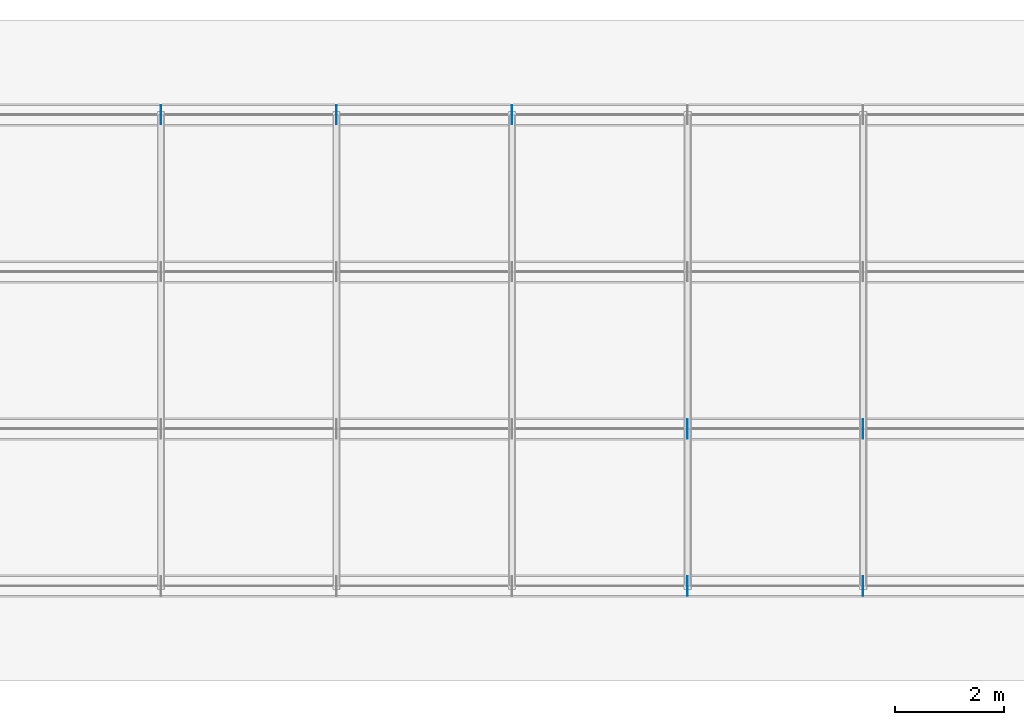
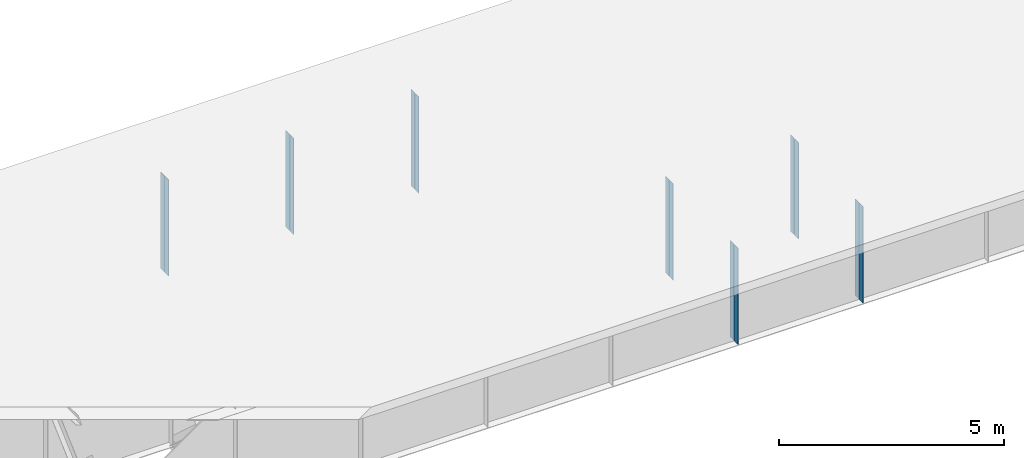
# One storey, part 12 of 13: 14 plates.
"""IFC4 building model written with IfcOpenShell, lengths in metres."""

import ifcopenshell
import ifcopenshell.guid

model = None  # the IFC model being written
_history = None  # IfcOwnerHistory: only IFC2X3 demands one
_inside = {}  # id of a spatial element -> (the spatial element, [elements in it])
_under = {}  # id of a project, library or spatial element -> (it, [spatial elements below it])
_declared = {}  # id of a project -> (the project, [libraries it declares])
_typed = {}  # id of a type object -> (the type object, [elements of that type])
_made_of = {}  # id of a material, layer set ... -> (it, [elements and type objects made of it])


def new_model(schema):
    """Start an empty IFC model of exactly this schema.

    Asked for "IFC4X3", IfcOpenShell would pick the latest addendum, in which some entities
    have other attributes; the version numbers below select the first issue.
    IFC2X3 requires an IfcOwnerHistory on every rooted entity: one is made here for all.
    """
    global model, _history
    if schema == "IFC4X3":
        model = ifcopenshell.file(schema_version=(4, 3, 0, 0))
    else:
        model = ifcopenshell.file(schema=schema)
    _inside.clear()
    _under.clear()
    _declared.clear()
    _typed.clear()
    _made_of.clear()
    _history = None
    if model.schema == "IFC2X3":
        org = make("IfcOrganization", Name="unknown")
        user = make(
            "IfcPersonAndOrganization",
            ThePerson=make("IfcPerson", FamilyName="unknown"),
            TheOrganization=org,
        )
        app = make(
            "IfcApplication",
            ApplicationDeveloper=org,
            Version="unknown",
            ApplicationFullName="unknown",
            ApplicationIdentifier="unknown",
        )
        _history = make(
            "IfcOwnerHistory",
            OwningUser=user,
            OwningApplication=app,
            ChangeAction="ADDED",
            CreationDate=0,
        )
    return model


def make(cls, **values):
    """One entity of the class cls with the attributes given. An attribute that is None is left unset."""
    return model.create_entity(
        cls, **{name: value for name, value in values.items() if value is not None}
    )


def rooted(cls, **values):
    """An entity with a GlobalId (a new one), such as an element, a storey or a relation."""
    return make(cls, GlobalId=ifcopenshell.guid.new(), OwnerHistory=_history, **values)


def si_unit(unit_type, name, prefix=None):
    """IfcSIUnit, for example si_unit("LENGTHUNIT", "METRE", prefix="MILLI")."""
    return make("IfcSIUnit", UnitType=unit_type, Prefix=prefix, Name=name)


def assignment(units):
    """IfcUnitAssignment: the units of a project."""
    return None if units is None else make("IfcUnitAssignment", Units=units)


def point(xyz):
    """IfcCartesianPoint."""
    return None if xyz is None else make("IfcCartesianPoint", Coordinates=xyz)


def direction(xyz):
    """IfcDirection."""
    return None if xyz is None else make("IfcDirection", DirectionRatios=xyz)


def frame(location, z_axis=None, x_axis=None):
    """IfcAxis2Placement3D, a coordinate frame: its origin and axes. An axis left out is left unset."""
    return make(
        "IfcAxis2Placement3D",
        Location=point(location),
        Axis=direction(z_axis),
        RefDirection=direction(x_axis),
    )


def frame_2d(location, x_axis=None):
    """IfcAxis2Placement2D, a coordinate frame in the plane: its origin and x axis."""
    return make(
        "IfcAxis2Placement2D", Location=point(location), RefDirection=direction(x_axis)
    )


def origin():
    """The frame at (0, 0, 0) with its axes left unset."""
    return frame((0.0, 0.0, 0.0))


def origin_with_axes():
    """The frame at (0, 0, 0) with the z axis (0, 0, 1) and the x axis (1, 0, 0) written out."""
    return frame((0.0, 0.0, 0.0), z_axis=(0.0, 0.0, 1.0), x_axis=(1.0, 0.0, 0.0))


def origin_2d_with_axis():
    """The frame at (0, 0) in the plane with the x axis (1, 0) written out."""
    return frame_2d((0.0, 0.0), x_axis=(1.0, 0.0))


def place(relative_to, where):
    """IfcLocalPlacement: puts the frame where relative to a parent placement (None: the world)."""
    return make(
        "IfcLocalPlacement", PlacementRelTo=relative_to, RelativePlacement=where
    )


def context(
    kind, dimensions, precision=None, world=None, true_north=None, identifier=None
):
    """IfcGeometricRepresentationContext, for example the 3D "Model" context."""
    return make(
        "IfcGeometricRepresentationContext",
        ContextIdentifier=identifier,
        ContextType=kind,
        CoordinateSpaceDimension=dimensions,
        Precision=precision,
        WorldCoordinateSystem=world,
        TrueNorth=true_north,
    )


def subcontext(parent, identifier, kind, view, scale=None):
    """IfcGeometricRepresentationSubContext, for example "Body" below "Model"."""
    return make(
        "IfcGeometricRepresentationSubContext",
        ContextIdentifier=identifier,
        ContextType=kind,
        ParentContext=parent,
        TargetScale=scale,
        TargetView=view,
    )


def project(units=None, contexts=None):
    """IfcProject with its units and contexts."""
    return rooted(
        "IfcProject",
        Name="project",
        RepresentationContexts=contexts,
        UnitsInContext=assignment(units),
    )


def spatial(cls, under=None, at=None, **own):
    """A site, building, storey or space (cls), placed at a placement, below another one or the project."""
    s = rooted(cls, ObjectPlacement=at, **own)
    if under is not None:
        _under.setdefault(under.id(), (under, []))[1].append(s)
    return s


def profile(cls, at=None, kind="AREA", **sizes):
    """A parametric profile (cls). Its sizes go by their IFC names, for example OverallWidth=200.0."""
    return make(cls, ProfileType=kind, Position=at, **sizes)


def rectangle(**sizes):
    """IfcRectangleProfileDef."""
    return profile("IfcRectangleProfileDef", **sizes)


def extrude(swept, where, along, depth):
    """IfcExtrudedAreaSolid: the profile swept, set in the frame where, extruded along a direction by depth."""
    return make(
        "IfcExtrudedAreaSolid",
        SweptArea=swept,
        Position=where,
        ExtrudedDirection=direction(along),
        Depth=depth,
    )


def shape(context_of_items, identifier, shape_type, items):
    """IfcShapeRepresentation: the items that make up one representation, for example the "Body"."""
    return make(
        "IfcShapeRepresentation",
        ContextOfItems=context_of_items,
        RepresentationIdentifier=identifier,
        RepresentationType=shape_type,
        Items=items,
    )


def made_of(thing, what):
    """Note that an element or type object is made of a material, layer set ...; save() writes the relation."""
    if what is not None:
        _made_of.setdefault(what.id(), (what, []))[1].append(thing)
    return thing


def element(
    cls,
    number,
    at=None,
    inside=None,
    cuts=None,
    type_object=None,
    material=None,
    context=None,
    identifier="Body",
    shape_type=None,
    held_by="IfcProductDefinitionShape",
    body=None,
    shapes=None,
    **own,
):
    """One element of the class cls, such as IfcWall. Its Tag is "e" and its number.

    at: its placement. inside: the storey or other place that contains it. cuts: it is an
    opening in that element (IfcRelVoidsElement). A single representation is given by context,
    identifier, shape_type and body (its items); several are given by shapes. held_by: the class
    of the entity that holds the representations. save() writes the other relations.
    """
    e = rooted(cls, Tag="e%d" % number, ObjectPlacement=at, **own)
    if body is not None:
        shapes = [shape(context, identifier, shape_type, body)]
    if shapes is not None:
        e.Representation = make(held_by, Representations=shapes)
    if inside is not None:
        _inside.setdefault(inside.id(), (inside, []))[1].append(e)
    if cuts is not None:
        rooted(
            "IfcRelVoidsElement", RelatingBuildingElement=cuts, RelatedOpeningElement=e
        )
    if type_object is not None:
        _typed.setdefault(type_object.id(), (type_object, []))[1].append(e)
    return made_of(e, material)


def aggregate(whole, parts):
    """IfcRelAggregates: a whole, such as a stair, and the parts it consists of."""
    return rooted("IfcRelAggregates", RelatingObject=whole, RelatedObjects=parts)


def save(model, path):
    """Write the relations noted so far, then the file.

    IfcRelAggregates (storeys below a building ...), IfcRelContainedInSpatialStructure (elements
    in a storey), IfcRelDefinesByType, IfcRelAssociatesMaterial and IfcRelDeclares: one each for
    every whole, place, type object, material and project.
    """
    for whole, parts in _under.values():
        aggregate(whole, parts)
    for where, things in _inside.values():
        rooted(
            "IfcRelContainedInSpatialStructure",
            RelatedElements=things,
            RelatingStructure=where,
        )
    for kind, things in _typed.values():
        rooted("IfcRelDefinesByType", RelatedObjects=things, RelatingType=kind)
    for what, things in _made_of.values():
        rooted("IfcRelAssociatesMaterial", RelatedObjects=things, RelatingMaterial=what)
    for by, libraries in _declared.values():
        rooted("IfcRelDeclares", RelatingContext=by, RelatedDefinitions=libraries)
    model.write(path)


model = new_model("IFC4")

# Units and contexts
model_context = context("Model", 3, precision=1e-05, world=origin())
body_context = subcontext(model_context, "Body", "Model", "MODEL_VIEW")
ifc_project = project(units=[si_unit("LENGTHUNIT", "METRE"), si_unit("AREAUNIT", "SQUARE_METRE"), si_unit("VOLUMEUNIT", "CUBIC_METRE"), si_unit("PLANEANGLEUNIT", "RADIAN")], contexts=[model_context])

# Site, building, storey
site_placement = place(None, origin_with_axes())
site = spatial("IfcSite", under=ifc_project, at=site_placement, Name="Default Site")
building_placement = place(site_placement, origin_with_axes())
building = spatial("IfcBuilding", under=site, at=building_placement, Name="Bridge Structure")
storey_placement = place(building_placement, origin_with_axes())
storey = spatial("IfcBuildingStorey", under=building, at=storey_placement, Name="Superstructure")

# Plates
for number, where, z_axis, x_axis, name in (
    (1, (32.14, -4.2205, -1.307), (0.0, 0.0, 1.0), (1.0, 0.0, 0.0), "Intermediate Stiffener 1"),
    (2, (32.14, -4.4045000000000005, -1.307), (0.0, 0.0, 1.0), (1.0, 0.0, 0.0), "Intermediate Stiffener 1"),
    (3, (35.354, -4.2205, -1.307), (0.0, 0.0, 1.0), (1.0, 0.0, 0.0), "Intermediate Stiffener 1"),
    (4, (35.354, -4.4045000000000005, -1.307), (0.0, 0.0, 1.0), (1.0, 0.0, 0.0), "Intermediate Stiffener 1"),
    (5, (32.14, -1.3455, -1.307), (0.0, 0.0, 1.0), (1.0, 0.0, 0.0), "Intermediate Stiffener 2"),
    (6, (32.14, -1.5295, -1.307), (0.0, 0.0, 1.0), (1.0, 0.0, 0.0), "Intermediate Stiffener 2"),
    (7, (35.354, -1.3455, -1.307), (0.0, 0.0, 1.0), (1.0, 0.0, 0.0), "Intermediate Stiffener 2"),
    (8, (35.354, -1.5295, -1.307), (0.0, 0.0, 1.0), (1.0, 0.0, 0.0), "Intermediate Stiffener 2"),
    (9, (22.498, 4.4045000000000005, -1.307), (0.0, 0.0, 1.0), (1.0, 0.0, 0.0), "Intermediate Stiffener 4"),
    (10, (22.498, 4.2205, -1.307), (0.0, 0.0, 1.0), (1.0, 0.0, 0.0), "Intermediate Stiffener 4"),
    (11, (25.712, 4.4045000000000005, -1.307), (0.0, 0.0, 1.0), (1.0, 0.0, 0.0), "Intermediate Stiffener 4"),
    (12, (25.712, 4.2205, -1.307), (0.0, 0.0, 1.0), (1.0, 0.0, 0.0), "Intermediate Stiffener 4"),
    (13, (28.926000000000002, 4.4045000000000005, -1.307), (0.0, 0.0, 1.0), (1.0, 0.0, 0.0), "Intermediate Stiffener 4"),
    (14, (28.926000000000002, 4.2205, -1.307), (0.0, 0.0, 1.0), (1.0, 0.0, 0.0), "Intermediate Stiffener 4"),
):
    element("IfcPlate", number, at=place(storey_placement, frame(where, z_axis=z_axis, x_axis=x_axis)), inside=storey, Name=name, context=body_context, shape_type="SweptSolid", body=[
        extrude(rectangle(XDim=0.012, YDim=0.166, at=origin_2d_with_axis()), origin_with_axes(), (0.0, 0.0, 1.0), 2.614),
    ])

save(model, "model.ifc")
